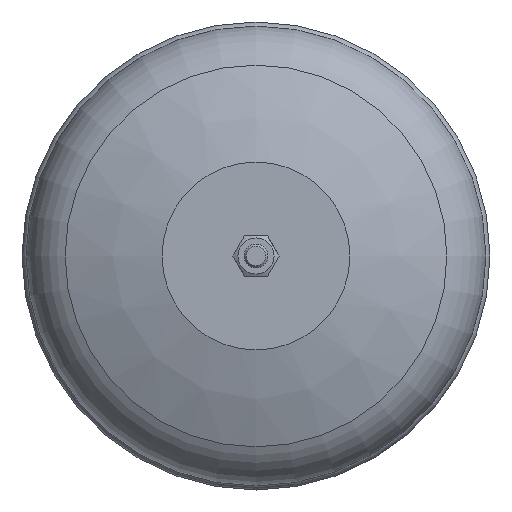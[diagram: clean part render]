
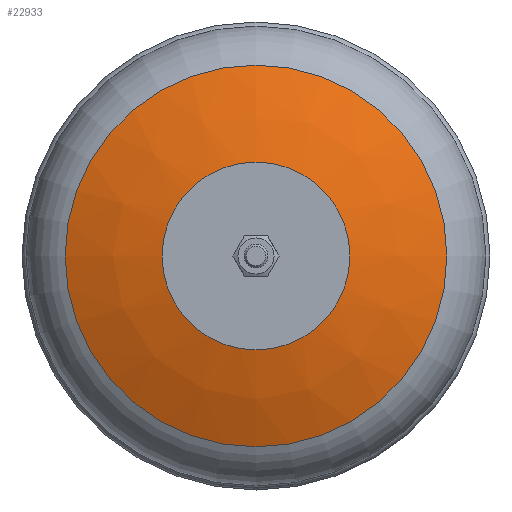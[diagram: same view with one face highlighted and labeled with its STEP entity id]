
A CAD part, front view. The second image highlights one B-rep face of the part: STEP entity #22933.
In plain terms, the highlighted free-form (B-spline) face has degree [2, 2] with [3, 9] control points.
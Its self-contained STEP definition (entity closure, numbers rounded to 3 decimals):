
#22=(
BOUNDED_CURVE()
B_SPLINE_CURVE(2,(#49204,#49205,#49206),.UNSPECIFIED.,.F.,.F.)
B_SPLINE_CURVE_WITH_KNOTS((3,3),(-1.369,-1.15),
 .UNSPECIFIED.)
CURVE()
GEOMETRIC_REPRESENTATION_ITEM()
RATIONAL_B_SPLINE_CURVE((1.,0.994,1.))
REPRESENTATION_ITEM('')
);
#35=(
BOUNDED_SURFACE()
B_SPLINE_SURFACE(2,2,((#49176,#49177,#49178,#49179,#49180,#49181,#49182,
#49183,#49184),(#49185,#49186,#49187,#49188,#49189,#49190,#49191,#49192,
#49193),(#49194,#49195,#49196,#49197,#49198,#49199,#49200,#49201,#49202)),
 .UNSPECIFIED.,.F.,.T.,.F.)
B_SPLINE_SURFACE_WITH_KNOTS((3,3),(3,2,2,2,3),(1.15,1.369),
(-3.142,-1.571,0.,1.571,3.142),
 .UNSPECIFIED.)
GEOMETRIC_REPRESENTATION_ITEM()
RATIONAL_B_SPLINE_SURFACE(((1.,0.707,1.,0.707,1.,
0.707,1.,0.707,1.),(0.994,0.703,
0.994,0.703,0.994,0.703,0.994,
0.703,0.994),(1.,0.707,1.,0.707,
1.,0.707,1.,0.707,1.)))
REPRESENTATION_ITEM('')
SURFACE()
);
#1586=CIRCLE('',#24603,39.829);
#1587=CIRCLE('',#24604,39.829);
#1588=CIRCLE('',#24605,80.933);
#1589=CIRCLE('',#24606,80.933);
#6688=FACE_OUTER_BOUND('',#8066,.T.);
#8066=EDGE_LOOP('',(#21439,#21440,#21441,#21442,#21443,#21444));
#11277=VERTEX_POINT('',#49172);
#11278=VERTEX_POINT('',#49173);
#11279=VERTEX_POINT('',#49203);
#11280=VERTEX_POINT('',#49207);
#14687=EDGE_CURVE('',#11277,#11278,#1586,.T.);
#14688=EDGE_CURVE('',#11278,#11277,#1587,.T.);
#14689=EDGE_CURVE('',#11278,#11279,#22,.T.);
#14690=EDGE_CURVE('',#11279,#11280,#1588,.T.);
#14691=EDGE_CURVE('',#11280,#11279,#1589,.T.);
#21439=ORIENTED_EDGE('',*,*,#14687,.F.);
#21440=ORIENTED_EDGE('',*,*,#14688,.F.);
#21441=ORIENTED_EDGE('',*,*,#14689,.T.);
#21442=ORIENTED_EDGE('',*,*,#14690,.T.);
#21443=ORIENTED_EDGE('',*,*,#14691,.T.);
#21444=ORIENTED_EDGE('',*,*,#14689,.F.);
#22933=ADVANCED_FACE('',(#6688),#35,.F.);
#24603=AXIS2_PLACEMENT_3D('',#49174,#29552,#29553);
#24604=AXIS2_PLACEMENT_3D('',#49175,#29554,#29555);
#24605=AXIS2_PLACEMENT_3D('',#49208,#29556,#29557);
#24606=AXIS2_PLACEMENT_3D('',#49209,#29558,#29559);
#29552=DIRECTION('center_axis',(0.,-1.,0.));
#29553=DIRECTION('ref_axis',(1.,0.,0.));
#29554=DIRECTION('center_axis',(0.,-1.,0.));
#29555=DIRECTION('ref_axis',(1.,0.,0.));
#29556=DIRECTION('center_axis',(0.,-1.,0.));
#29557=DIRECTION('ref_axis',(1.,0.,0.));
#29558=DIRECTION('center_axis',(0.,-1.,0.));
#29559=DIRECTION('ref_axis',(1.,0.,0.));
#49172=CARTESIAN_POINT('',(39.829,0.021,0.));
#49173=CARTESIAN_POINT('',(0.,0.021,39.829));
#49174=CARTESIAN_POINT('Origin',(0.,0.021,0.));
#49175=CARTESIAN_POINT('Origin',(0.,0.021,0.));
#49176=CARTESIAN_POINT('Ctrl Pts',(0.,13.249,80.933));
#49177=CARTESIAN_POINT('Ctrl Pts',(-80.933,13.249,80.933));
#49178=CARTESIAN_POINT('Ctrl Pts',(-80.933,13.249,0.));
#49179=CARTESIAN_POINT('Ctrl Pts',(-80.933,13.249,-80.933));
#49180=CARTESIAN_POINT('Ctrl Pts',(0.,13.249,-80.933));
#49181=CARTESIAN_POINT('Ctrl Pts',(80.933,13.249,-80.933));
#49182=CARTESIAN_POINT('Ctrl Pts',(80.933,13.249,0.));
#49183=CARTESIAN_POINT('Ctrl Pts',(80.933,13.249,80.933));
#49184=CARTESIAN_POINT('Ctrl Pts',(0.,13.249,80.933));
#49185=CARTESIAN_POINT('Ctrl Pts',(0.,4.381,61.107));
#49186=CARTESIAN_POINT('Ctrl Pts',(-61.107,4.381,61.107));
#49187=CARTESIAN_POINT('Ctrl Pts',(-61.107,4.381,0.));
#49188=CARTESIAN_POINT('Ctrl Pts',(-61.107,4.381,-61.107));
#49189=CARTESIAN_POINT('Ctrl Pts',(0.,4.381,-61.107));
#49190=CARTESIAN_POINT('Ctrl Pts',(61.107,4.381,-61.107));
#49191=CARTESIAN_POINT('Ctrl Pts',(61.107,4.381,0.));
#49192=CARTESIAN_POINT('Ctrl Pts',(61.107,4.381,61.107));
#49193=CARTESIAN_POINT('Ctrl Pts',(0.,4.381,61.107));
#49194=CARTESIAN_POINT('Ctrl Pts',(0.,0.021,39.829));
#49195=CARTESIAN_POINT('Ctrl Pts',(-39.829,0.021,
39.829));
#49196=CARTESIAN_POINT('Ctrl Pts',(-39.829,0.021,
0.));
#49197=CARTESIAN_POINT('Ctrl Pts',(-39.829,0.021,
-39.829));
#49198=CARTESIAN_POINT('Ctrl Pts',(0.,0.021,-39.829));
#49199=CARTESIAN_POINT('Ctrl Pts',(39.829,0.021,-39.829));
#49200=CARTESIAN_POINT('Ctrl Pts',(39.829,0.021,0.));
#49201=CARTESIAN_POINT('Ctrl Pts',(39.829,0.021,39.829));
#49202=CARTESIAN_POINT('Ctrl Pts',(0.,0.021,39.829));
#49203=CARTESIAN_POINT('',(0.,13.249,80.933));
#49204=CARTESIAN_POINT('Ctrl Pts',(0.,0.021,39.829));
#49205=CARTESIAN_POINT('Ctrl Pts',(0.,4.381,61.107));
#49206=CARTESIAN_POINT('Ctrl Pts',(0.,13.249,80.933));
#49207=CARTESIAN_POINT('',(80.933,13.249,0.));
#49208=CARTESIAN_POINT('Origin',(0.,13.249,0.));
#49209=CARTESIAN_POINT('Origin',(0.,13.249,0.));
